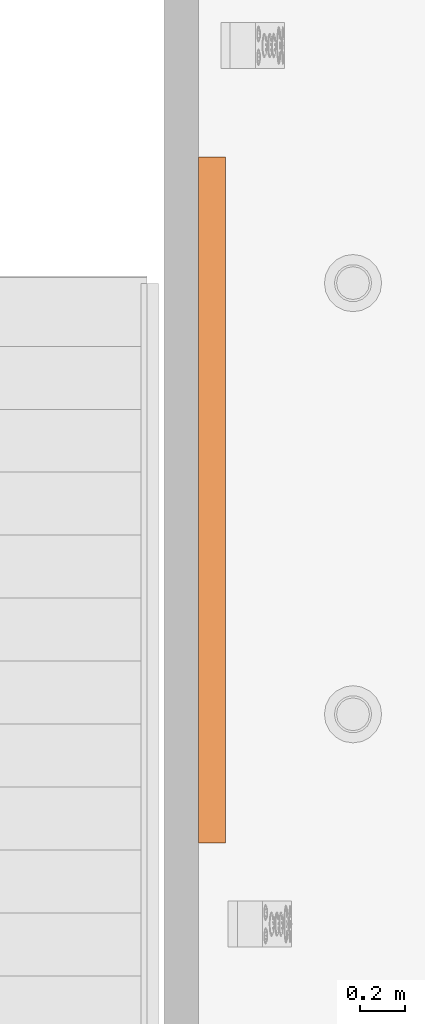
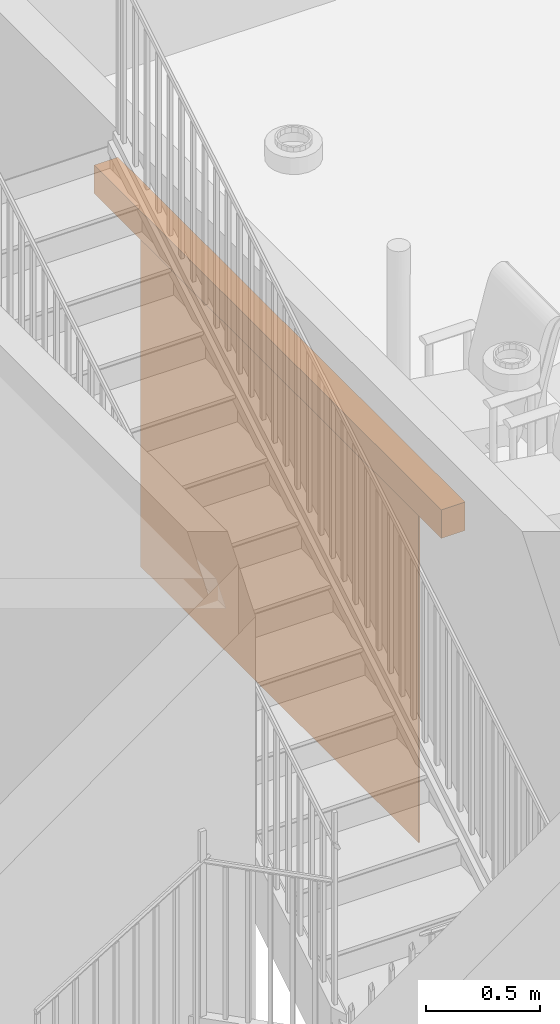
# One storey, part 21 of 21: 1 proxy.
"""IFC2X3 building model written with IfcOpenShell, lengths in feet."""

import ifcopenshell
import ifcopenshell.guid

model = None  # the IFC model being written
_history = None  # IfcOwnerHistory: only IFC2X3 demands one
_inside = {}  # id of a spatial element -> (the spatial element, [elements in it])
_under = {}  # id of a project, library or spatial element -> (it, [spatial elements below it])
_declared = {}  # id of a project -> (the project, [libraries it declares])
_typed = {}  # id of a type object -> (the type object, [elements of that type])
_made_of = {}  # id of a material, layer set ... -> (it, [elements and type objects made of it])


def new_model(schema):
    """Start an empty IFC model of exactly this schema.

    Asked for "IFC4X3", IfcOpenShell would pick the latest addendum, in which some entities
    have other attributes; the version numbers below select the first issue.
    IFC2X3 requires an IfcOwnerHistory on every rooted entity: one is made here for all.
    """
    global model, _history
    if schema == "IFC4X3":
        model = ifcopenshell.file(schema_version=(4, 3, 0, 0))
    else:
        model = ifcopenshell.file(schema=schema)
    _inside.clear()
    _under.clear()
    _declared.clear()
    _typed.clear()
    _made_of.clear()
    _history = None
    if model.schema == "IFC2X3":
        org = make("IfcOrganization", Name="unknown")
        user = make(
            "IfcPersonAndOrganization",
            ThePerson=make("IfcPerson", FamilyName="unknown"),
            TheOrganization=org,
        )
        app = make(
            "IfcApplication",
            ApplicationDeveloper=org,
            Version="unknown",
            ApplicationFullName="unknown",
            ApplicationIdentifier="unknown",
        )
        _history = make(
            "IfcOwnerHistory",
            OwningUser=user,
            OwningApplication=app,
            ChangeAction="ADDED",
            CreationDate=0,
        )
    return model


def make(cls, **values):
    """One entity of the class cls with the attributes given. An attribute that is None is left unset."""
    return model.create_entity(
        cls, **{name: value for name, value in values.items() if value is not None}
    )


def entity(cls, *values):
    """Any entity or typed value of the class cls, its attributes in the order of the schema. None: left unset."""
    e = model.create_entity(cls)
    for i, value in enumerate(values):
        if value is not None:
            e[i] = value
    return e


def rooted(cls, **values):
    """An entity with a GlobalId (a new one), such as an element, a storey or a relation."""
    return make(cls, GlobalId=ifcopenshell.guid.new(), OwnerHistory=_history, **values)


def si_unit(unit_type, name, prefix=None):
    """IfcSIUnit, for example si_unit("LENGTHUNIT", "METRE", prefix="MILLI")."""
    return make("IfcSIUnit", UnitType=unit_type, Prefix=prefix, Name=name)


def converted_unit(unit_type, name, factor, base, dimensions=None, offset=None):
    """IfcConversionBasedUnit, such as the inch: factor (a typed value) times the base unit."""
    return make(
        "IfcConversionBasedUnit"
        if offset is None
        else "IfcConversionBasedUnitWithOffset",
        ConversionOffset=offset,
        Dimensions=None
        if dimensions is None
        else entity("IfcDimensionalExponents", *dimensions),
        UnitType=unit_type,
        Name=name,
        ConversionFactor=make(
            "IfcMeasureWithUnit", ValueComponent=factor, UnitComponent=base
        ),
    )


def derived_unit(unit_type, elements):
    """IfcDerivedUnit: a product of units, each with its exponent."""
    return make(
        "IfcDerivedUnit",
        Elements=[
            make("IfcDerivedUnitElement", Unit=unit, Exponent=power)
            for unit, power in elements
        ],
        UnitType=unit_type,
    )


def assignment(units):
    """IfcUnitAssignment: the units of a project."""
    return None if units is None else make("IfcUnitAssignment", Units=units)


def point(xyz):
    """IfcCartesianPoint."""
    return None if xyz is None else make("IfcCartesianPoint", Coordinates=xyz)


def direction(xyz):
    """IfcDirection."""
    return None if xyz is None else make("IfcDirection", DirectionRatios=xyz)


def frame(location, z_axis=None, x_axis=None):
    """IfcAxis2Placement3D, a coordinate frame: its origin and axes. An axis left out is left unset."""
    return make(
        "IfcAxis2Placement3D",
        Location=point(location),
        Axis=direction(z_axis),
        RefDirection=direction(x_axis),
    )


def frame_2d(location, x_axis=None):
    """IfcAxis2Placement2D, a coordinate frame in the plane: its origin and x axis."""
    return make(
        "IfcAxis2Placement2D", Location=point(location), RefDirection=direction(x_axis)
    )


def origin():
    """The frame at (0, 0, 0) with its axes left unset."""
    return frame((0.0, 0.0, 0.0))


def origin_2d_with_axis():
    """The frame at (0, 0) in the plane with the x axis (1, 0) written out."""
    return frame_2d((0.0, 0.0), x_axis=(1.0, 0.0))


def place(relative_to, where):
    """IfcLocalPlacement: puts the frame where relative to a parent placement (None: the world)."""
    return make(
        "IfcLocalPlacement", PlacementRelTo=relative_to, RelativePlacement=where
    )


def context(
    kind, dimensions, precision=None, world=None, true_north=None, identifier=None
):
    """IfcGeometricRepresentationContext, for example the 3D "Model" context."""
    return make(
        "IfcGeometricRepresentationContext",
        ContextIdentifier=identifier,
        ContextType=kind,
        CoordinateSpaceDimension=dimensions,
        Precision=precision,
        WorldCoordinateSystem=world,
        TrueNorth=true_north,
    )


def subcontext(parent, identifier, kind, view, scale=None):
    """IfcGeometricRepresentationSubContext, for example "Body" below "Model"."""
    return make(
        "IfcGeometricRepresentationSubContext",
        ContextIdentifier=identifier,
        ContextType=kind,
        ParentContext=parent,
        TargetScale=scale,
        TargetView=view,
    )


def project(units=None, contexts=None):
    """IfcProject with its units and contexts."""
    return rooted(
        "IfcProject",
        Name="project",
        RepresentationContexts=contexts,
        UnitsInContext=assignment(units),
    )


def spatial(cls, under=None, at=None, **own):
    """A site, building, storey or space (cls), placed at a placement, below another one or the project."""
    s = rooted(cls, ObjectPlacement=at, **own)
    if under is not None:
        _under.setdefault(under.id(), (under, []))[1].append(s)
    return s


def profile(cls, at=None, kind="AREA", **sizes):
    """A parametric profile (cls). Its sizes go by their IFC names, for example OverallWidth=200.0."""
    return make(cls, ProfileType=kind, Position=at, **sizes)


def rectangle(**sizes):
    """IfcRectangleProfileDef."""
    return profile("IfcRectangleProfileDef", **sizes)


def extrude(swept, where, along, depth):
    """IfcExtrudedAreaSolid: the profile swept, set in the frame where, extruded along a direction by depth."""
    return make(
        "IfcExtrudedAreaSolid",
        SweptArea=swept,
        Position=where,
        ExtrudedDirection=direction(along),
        Depth=depth,
    )


def shape(context_of_items, identifier, shape_type, items):
    """IfcShapeRepresentation: the items that make up one representation, for example the "Body"."""
    return make(
        "IfcShapeRepresentation",
        ContextOfItems=context_of_items,
        RepresentationIdentifier=identifier,
        RepresentationType=shape_type,
        Items=items,
    )


def source(mapping_origin, context_of_items, identifier, shape_type, items):
    """IfcRepresentationMap: a shape defined once, which mapped items show again and again."""
    return make(
        "IfcRepresentationMap",
        MappingOrigin=mapping_origin,
        MappedRepresentation=shape(context_of_items, identifier, shape_type, items),
    )


def transform(
    local_origin,
    x_axis=None,
    y_axis=None,
    z_axis=None,
    scale=None,
    scale2=None,
    scale3=None,
    uniform=True,
):
    """IfcCartesianTransformationOperator3D, or its non-uniform kind. x_axis, y_axis, z_axis: its Axis1, 2, 3."""
    if uniform:
        return make(
            "IfcCartesianTransformationOperator3D",
            Axis1=direction(x_axis),
            Axis2=direction(y_axis),
            LocalOrigin=point(local_origin),
            Scale=scale,
            Axis3=direction(z_axis),
        )
    return make(
        "IfcCartesianTransformationOperator3DnonUniform",
        Axis1=direction(x_axis),
        Axis2=direction(y_axis),
        LocalOrigin=point(local_origin),
        Scale=scale,
        Axis3=direction(z_axis),
        Scale2=scale2,
        Scale3=scale3,
    )


def mapped(mapping_source, mapping_target):
    """IfcMappedItem: shows the shape of a source again, moved by a transform."""
    return make(
        "IfcMappedItem", MappingSource=mapping_source, MappingTarget=mapping_target
    )


def material(Name=None, Category=None):
    """IfcMaterial."""
    return make("IfcMaterial", Name=Name, Category=Category)


def material_list(materials):
    """IfcMaterialList."""
    return make("IfcMaterialList", Materials=materials)


def made_of(thing, what):
    """Note that an element or type object is made of a material, layer set ...; save() writes the relation."""
    if what is not None:
        _made_of.setdefault(what.id(), (what, []))[1].append(thing)
    return thing


def type_object(cls, material=None, **own):
    """A type object (cls), such as IfcWallType, which elements share."""
    return made_of(rooted(cls, **own), material)


def type_shapes(of_type, sources):
    """Give a type object the sources (RepresentationMaps) that its elements show as mapped items."""
    of_type.RepresentationMaps = sources


def element(
    cls,
    number,
    at=None,
    inside=None,
    cuts=None,
    type_object=None,
    material=None,
    context=None,
    identifier="Body",
    shape_type=None,
    held_by="IfcProductDefinitionShape",
    body=None,
    shapes=None,
    **own,
):
    """One element of the class cls, such as IfcWall. Its Tag is "e" and its number.

    at: its placement. inside: the storey or other place that contains it. cuts: it is an
    opening in that element (IfcRelVoidsElement). A single representation is given by context,
    identifier, shape_type and body (its items); several are given by shapes. held_by: the class
    of the entity that holds the representations. save() writes the other relations.
    """
    e = rooted(cls, Tag="e%d" % number, ObjectPlacement=at, **own)
    if body is not None:
        shapes = [shape(context, identifier, shape_type, body)]
    if shapes is not None:
        e.Representation = make(held_by, Representations=shapes)
    if inside is not None:
        _inside.setdefault(inside.id(), (inside, []))[1].append(e)
    if cuts is not None:
        rooted(
            "IfcRelVoidsElement", RelatingBuildingElement=cuts, RelatedOpeningElement=e
        )
    if type_object is not None:
        _typed.setdefault(type_object.id(), (type_object, []))[1].append(e)
    return made_of(e, material)


def aggregate(whole, parts):
    """IfcRelAggregates: a whole, such as a stair, and the parts it consists of."""
    return rooted("IfcRelAggregates", RelatingObject=whole, RelatedObjects=parts)


def save(model, path):
    """Write the relations noted so far, then the file.

    IfcRelAggregates (storeys below a building ...), IfcRelContainedInSpatialStructure (elements
    in a storey), IfcRelDefinesByType, IfcRelAssociatesMaterial and IfcRelDeclares: one each for
    every whole, place, type object, material and project.
    """
    for whole, parts in _under.values():
        aggregate(whole, parts)
    for where, things in _inside.values():
        rooted(
            "IfcRelContainedInSpatialStructure",
            RelatedElements=things,
            RelatingStructure=where,
        )
    for kind, things in _typed.values():
        rooted("IfcRelDefinesByType", RelatedObjects=things, RelatingType=kind)
    for what, things in _made_of.values():
        rooted("IfcRelAssociatesMaterial", RelatedObjects=things, RelatingMaterial=what)
    for by, libraries in _declared.values():
        rooted("IfcRelDeclares", RelatingContext=by, RelatedDefinitions=libraries)
    model.write(path)


model = new_model("IFC2X3")

# Units and contexts
model_context = context("Model", 3, precision=0.0001, world=origin(), true_north=direction((6.12303176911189e-17, 1.0)))
body_context = subcontext(model_context, "Body", "Model", "MODEL_VIEW")
ifc_project = project(units=[converted_unit("LENGTHUNIT", "FOOT", entity("IfcRatioMeasure", 0.3048), si_unit("LENGTHUNIT", "METRE"), dimensions=[1, 0, 0, 0, 0, 0, 0]), converted_unit("AREAUNIT", "SQUARE FOOT", entity("IfcRatioMeasure", 0.09290304), si_unit("AREAUNIT", "SQUARE_METRE"), dimensions=[2, 0, 0, 0, 0, 0, 0]), converted_unit("VOLUMEUNIT", "CUBIC FOOT", entity("IfcRatioMeasure", 0.028316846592), si_unit("VOLUMEUNIT", "CUBIC_METRE"), dimensions=[3, 0, 0, 0, 0, 0, 0]), converted_unit("PLANEANGLEUNIT", "DEGREE", entity("IfcRatioMeasure", 0.0174532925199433), si_unit("PLANEANGLEUNIT", "RADIAN"), dimensions=[0, 0, 0, 0, 0, 0, 0]), si_unit("MASSUNIT", "GRAM", prefix="KILO"), derived_unit("MASSDENSITYUNIT", [(si_unit("MASSUNIT", "GRAM", prefix="KILO"), 1), (si_unit("LENGTHUNIT", "METRE"), -3)]), si_unit("TIMEUNIT", "SECOND"), si_unit("FREQUENCYUNIT", "HERTZ"), si_unit("THERMODYNAMICTEMPERATUREUNIT", "DEGREE_CELSIUS"), derived_unit("THERMALTRANSMITTANCEUNIT", [(si_unit("MASSUNIT", "GRAM", prefix="KILO"), 1), (si_unit("THERMODYNAMICTEMPERATUREUNIT", "KELVIN"), -1), (si_unit("TIMEUNIT", "SECOND"), -3)]), derived_unit("VOLUMETRICFLOWRATEUNIT", [(si_unit("LENGTHUNIT", "METRE"), 3), (si_unit("TIMEUNIT", "SECOND"), -1)]), si_unit("ELECTRICCURRENTUNIT", "AMPERE"), si_unit("ELECTRICVOLTAGEUNIT", "VOLT"), si_unit("POWERUNIT", "WATT"), si_unit("FORCEUNIT", "NEWTON"), si_unit("ILLUMINANCEUNIT", "LUX"), si_unit("LUMINOUSFLUXUNIT", "LUMEN"), si_unit("LUMINOUSINTENSITYUNIT", "CANDELA"), derived_unit("USERDEFINED", [(si_unit("MASSUNIT", "GRAM", prefix="KILO"), -1), (si_unit("LENGTHUNIT", "METRE"), -2), (si_unit("TIMEUNIT", "SECOND"), 3), (si_unit("LUMINOUSFLUXUNIT", "LUMEN"), 1)]), derived_unit("LINEARVELOCITYUNIT", [(si_unit("LENGTHUNIT", "METRE"), 1), (si_unit("TIMEUNIT", "SECOND"), -1)]), si_unit("PRESSUREUNIT", "PASCAL"), derived_unit("USERDEFINED", [(si_unit("LENGTHUNIT", "METRE"), -2), (si_unit("MASSUNIT", "GRAM", prefix="KILO"), 1), (si_unit("TIMEUNIT", "SECOND"), -2)])], contexts=[model_context])

# Site, building, storey
site_placement = place(None, origin())
site = spatial("IfcSite", under=ifc_project, at=site_placement, Name="表面", CompositionType="ELEMENT")
building_placement = place(site_placement, origin())
building = spatial("IfcBuilding", under=site, at=building_placement, CompositionType="ELEMENT")
storey_placement = place(building_placement, origin())
storey = spatial("IfcBuildingStorey", under=building, at=storey_placement, Name="Level 1", CompositionType="ELEMENT", Elevation=0.0)

# Proxy
ifc_material_1 = material(Name="Screen")
ifc_material_2 = material(Name="Case")
ifc_material_list_1 = material_list([ifc_material_1, ifc_material_2])
ifc_material_list_2 = material_list([ifc_material_1, ifc_material_2])
building_element_proxy_type = type_object("IfcBuildingElementProxyType", Name="Projection_Screen_4752", PredefinedType="NOTDEFINED", material=ifc_material_list_2)
shared_shape = source(origin(), body_context, "Body", "SweptSolid", [
    extrude(rectangle(XDim=0.0208333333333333, YDim=8.0, at=origin_2d_with_axis()), frame((1.02083333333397, -0.0104166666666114, -6.0), z_axis=(0.0, 0.0, 1.0), x_axis=(0.0, 1.0, 0.0)), (0.0, 0.0, 1.0), 5.99999999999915),
    extrude(rectangle(XDim=0.395833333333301, YDim=9.97916666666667, at=frame_2d((-2.77555756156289e-17, -4.44089209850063e-16), x_axis=(1.0, 0.0))), frame((1.01041666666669, -0.010416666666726, 0.0), z_axis=(0.0, 0.0, 1.0), x_axis=(0.0, -1.0, 0.0)), (0.0, 0.0, 1.0), 0.5),
])
type_shapes(building_element_proxy_type, [shared_shape])
proxy_placement = place(storey_placement, frame((16.4234202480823, 3.39460625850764, 7.67708333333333), z_axis=(0.0, 0.0, 1.0), x_axis=(0.0, -1.0, 0.0)))
element("IfcBuildingElementProxy", 1, at=proxy_placement, inside=storey, type_object=building_element_proxy_type, material=ifc_material_list_1, Name="Projection_Screen_4752:Projection_Screen_4752", ObjectType="Projection_Screen_4752", context=body_context, shape_type="MappedRepresentation", body=[
    mapped(shared_shape, transform((0.0, 0.0, 0.0), scale=1.0)),
])

save(model, "model.ifc")
